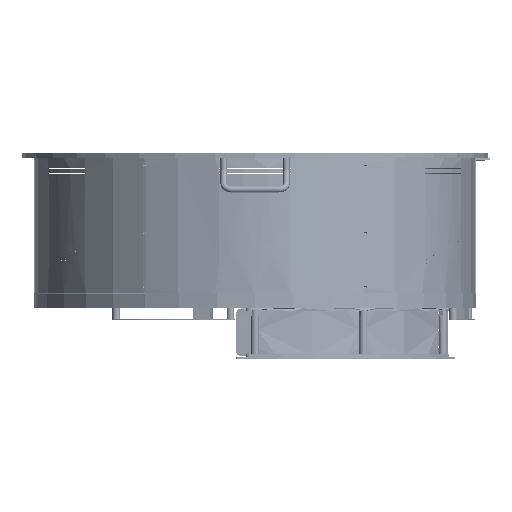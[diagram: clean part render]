
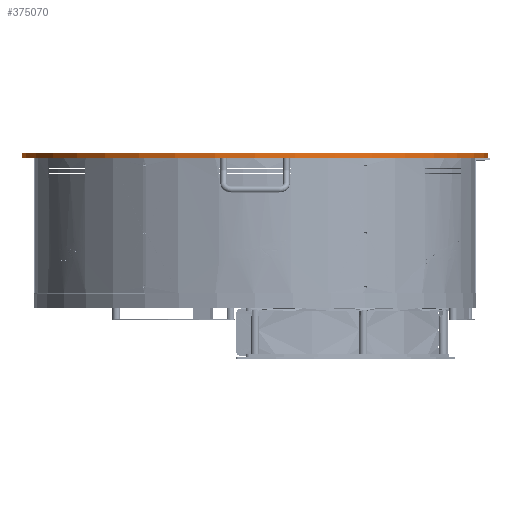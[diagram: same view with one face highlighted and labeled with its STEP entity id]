
A CAD part, front view. The second image highlights one B-rep face of the part: STEP entity #375070.
In plain terms, the highlighted cylindrical face has radius 445 mm (diameter 890 mm), a partial arc.
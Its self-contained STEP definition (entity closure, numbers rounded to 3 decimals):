
#2486 = CARTESIAN_POINT ( 'NONE',  ( 0., 0., 10. ) ) ;
#2535 = CARTESIAN_POINT ( 'NONE',  ( 445., 0., 0. ) ) ;
#8424 = AXIS2_PLACEMENT_3D ( 'NONE', #170338, #221034, #265010 ) ;
#25695 = ORIENTED_EDGE ( 'NONE', *, *, #230654, .T. ) ;
#47334 = VERTEX_POINT ( 'NONE', #2535 ) ;
#51264 = VERTEX_POINT ( 'NONE', #280004 ) ;
#61221 = EDGE_CURVE ( 'NONE', #89059, #47334, #652035, .T. ) ;
#88027 = DIRECTION ( 'NONE',  ( 0., 0., -1. ) ) ;
#89059 = VERTEX_POINT ( 'NONE', #385667 ) ;
#103854 = DIRECTION ( 'NONE',  ( -1., 0., 0. ) ) ;
#119823 = AXIS2_PLACEMENT_3D ( 'NONE', #2486, #630505, #103854 ) ;
#170338 = CARTESIAN_POINT ( 'NONE',  ( 0., 0., 0. ) ) ;
#174443 = ORIENTED_EDGE ( 'NONE', *, *, #330436, .T. ) ;
#202987 = EDGE_CURVE ( 'NONE', #51264, #89059, #350550, .T. ) ;
#205906 = LINE ( 'NONE', #465971, #572008 ) ;
#214103 = VERTEX_POINT ( 'NONE', #446971 ) ;
#221034 = DIRECTION ( 'NONE',  ( 0., 0., 1. ) ) ;
#230654 = EDGE_CURVE ( 'NONE', #51264, #214103, #205906, .T. ) ;
#253585 = VECTOR ( 'NONE', #88027, 1000. ) ;
#258025 = DIRECTION ( 'NONE',  ( 1., 0., 0. ) ) ;
#265010 = DIRECTION ( 'NONE',  ( 1., 0., 0. ) ) ;
#280004 = CARTESIAN_POINT ( 'NONE',  ( -445., 0., 10. ) ) ;
#330436 = EDGE_CURVE ( 'NONE', #214103, #47334, #375421, .T. ) ;
#350550 = CIRCLE ( 'NONE', #587697, 445. ) ;
#370583 = FACE_OUTER_BOUND ( 'NONE', #422851, .T. ) ;
#375070 = ADVANCED_FACE ( 'NONE', ( #370583 ), #465279, .T. ) ;
#375421 = CIRCLE ( 'NONE', #8424, 445. ) ;
#385667 = CARTESIAN_POINT ( 'NONE',  ( 445., 0., 10. ) ) ;
#412215 = ORIENTED_EDGE ( 'NONE', *, *, #202987, .F. ) ;
#415282 = DIRECTION ( 'NONE',  ( 0., 0., -1. ) ) ;
#422851 = EDGE_LOOP ( 'NONE', ( #600211, #412215, #25695, #174443 ) ) ;
#446971 = CARTESIAN_POINT ( 'NONE',  ( -445., 0., 0. ) ) ;
#465279 = CYLINDRICAL_SURFACE ( 'NONE', #119823, 445. ) ;
#465971 = CARTESIAN_POINT ( 'NONE',  ( -445., 0., 10. ) ) ;
#467403 = DIRECTION ( 'NONE',  ( 0., 0., 1. ) ) ;
#510030 = CARTESIAN_POINT ( 'NONE',  ( 445., 0., 10. ) ) ;
#521408 = CARTESIAN_POINT ( 'NONE',  ( 0., 0., 10. ) ) ;
#572008 = VECTOR ( 'NONE', #415282, 1000. ) ;
#587697 = AXIS2_PLACEMENT_3D ( 'NONE', #521408, #467403, #258025 ) ;
#600211 = ORIENTED_EDGE ( 'NONE', *, *, #61221, .F. ) ;
#630505 = DIRECTION ( 'NONE',  ( 0., 0., -1. ) ) ;
#652035 = LINE ( 'NONE', #510030, #253585 ) ;
